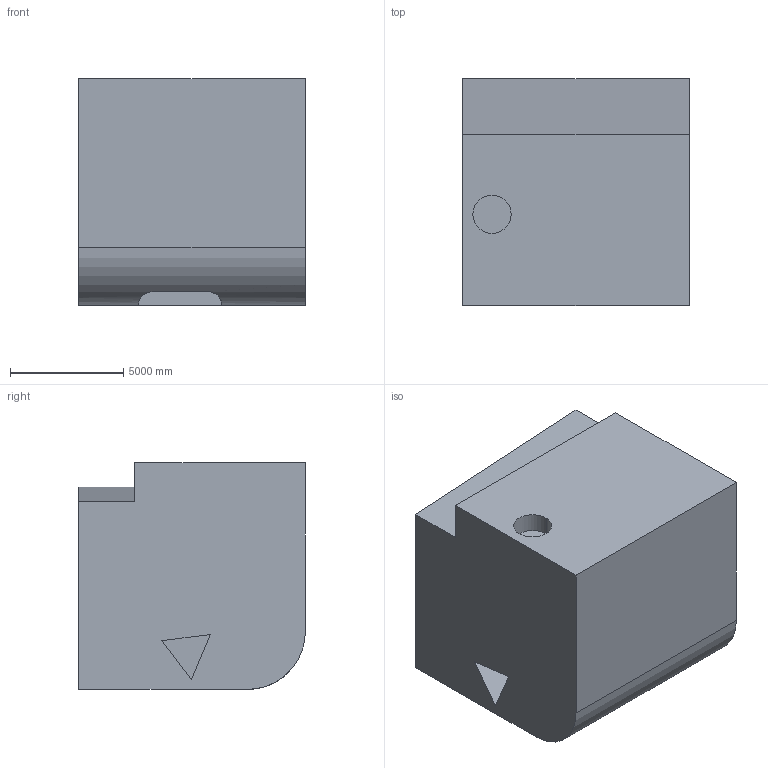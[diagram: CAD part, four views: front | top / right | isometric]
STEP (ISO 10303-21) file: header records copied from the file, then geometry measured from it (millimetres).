
FILE_DESCRIPTION (( 'STEP AP203' ), '1' );
FILE_NAME ('44.STEP', '2022-08-30T15:37:08', ( 'user' ), ( '' ), 'SwSTEP 2.0', 'SolidWorks 2021', '' );
FILE_SCHEMA (( 'CONFIG_CONTROL_DESIGN' ));
Length unit declared in the file: centimetre
Products named in the file (1): 44
Bounding box: 10000 x 10000 x 10000 mm (x, y, z)
Volume: 931290616912.5 mm3; surface area: 635815132.9 mm2
Topology: 1 solids, 1 shells, 20 faces, 48 edges, 32 vertices
Faces by surface type: plane 15, cylinder 5
Entity records: 827 total; most frequent: CARTESIAN_POINT 275, ORIENTED_EDGE 96, DIRECTION 96, EDGE_CURVE 48, LINE 38, VECTOR 38, VERTEX_POINT 32, AXIS2_PLACEMENT_3D 29
